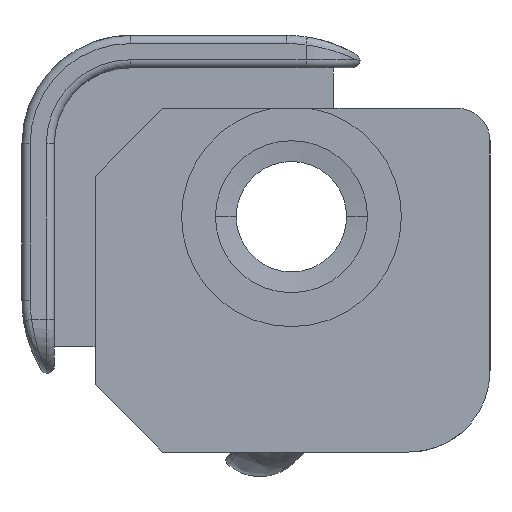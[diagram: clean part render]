
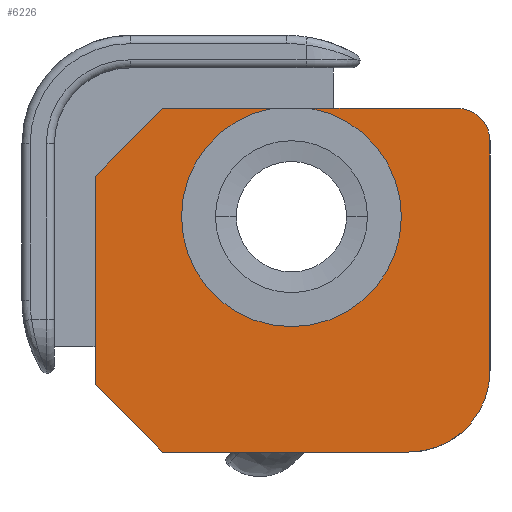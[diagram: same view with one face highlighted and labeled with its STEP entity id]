
A CAD part, left-side view. The second image highlights one B-rep face of the part: STEP entity #6226.
In plain terms, the highlighted planar face has unit normal (-1, 0, 0) as drawn and (0, 0, -1) by its records, which use the part's own axes.
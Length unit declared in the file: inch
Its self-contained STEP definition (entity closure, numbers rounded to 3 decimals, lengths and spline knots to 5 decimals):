
#5053=CARTESIAN_POINT('',(-0.2625,-0.305,-0.633));
#5054=DIRECTION('',(0.,0.,-1.));
#5055=DIRECTION('',(0.,-1.,0.));
#5056=AXIS2_PLACEMENT_3D('',#5053,#5054,#5055);
#5061=DIRECTION('',(1.,0.,0.));
#5062=VECTOR('',#5061,0.425);
#5063=CARTESIAN_POINT('',(-0.2625,-0.365,-0.633));
#5064=LINE('',#5063,#5062);
#5068=DIRECTION('',(-1.,0.,0.));
#5069=VECTOR('',#5068,0.385);
#5070=CARTESIAN_POINT('',(0.1875,0.365,-0.633));
#5071=LINE('',#5070,#5069);
#5075=DIRECTION('',(0.707,0.707,0.));
#5076=VECTOR('',#5075,0.17678);
#5077=CARTESIAN_POINT('',(-0.3225,0.24,-0.633));
#5078=LINE('',#5077,#5076);
#5082=DIRECTION('',(0.,-1.,0.));
#5083=VECTOR('',#5082,0.20208);
#5084=CARTESIAN_POINT('',(-0.3225,0.24,-0.633));
#5085=LINE('',#5084,#5083);
#5089=CARTESIAN_POINT('',(-0.1225,0.002,-0.633));
#5090=DIRECTION('',(0.,0.,-1.));
#5091=DIRECTION('',(-0.984,0.177,0.));
#5092=AXIS2_PLACEMENT_3D('',#5089,#5090,#5091);
#5104=DIRECTION('',(0.,-1.,0.));
#5105=VECTOR('',#5104,0.27108);
#5106=CARTESIAN_POINT('',(-0.3225,-0.03392,-0.633));
#5107=LINE('',#5106,#5105);
#5461=DIRECTION('',(0.,1.,0.));
#5462=VECTOR('',#5461,0.455);
#5463=CARTESIAN_POINT('',(0.3125,-0.215,-0.633));
#5464=LINE('',#5463,#5462);
#5677=CARTESIAN_POINT('',(0.1625,-0.215,-0.633));
#5678=DIRECTION('',(0.,0.,-1.));
#5679=DIRECTION('',(1.,0.,0.));
#5680=AXIS2_PLACEMENT_3D('',#5677,#5678,#5679);
#5752=DIRECTION('',(0.707,-0.707,0.));
#5753=VECTOR('',#5752,0.17678);
#5754=CARTESIAN_POINT('',(0.1875,0.365,-0.633));
#5755=LINE('',#5754,#5753);
#5877=CARTESIAN_POINT('',(0.3125,-0.215,-0.633));
#5878=CARTESIAN_POINT('',(0.3125,0.24,-0.633));
#5879=VERTEX_POINT('',#5877);
#5880=VERTEX_POINT('',#5878);
#5881=CARTESIAN_POINT('',(0.1625,-0.365,-0.633));
#5882=VERTEX_POINT('',#5881);
#5883=CARTESIAN_POINT('',(0.1875,0.365,-0.633));
#5884=VERTEX_POINT('',#5883);
#5914=CARTESIAN_POINT('',(-0.3225,-0.03392,-0.633));
#5916=VERTEX_POINT('',#5914);
#5918=CARTESIAN_POINT('',(-0.3225,0.03792,-0.633));
#5920=VERTEX_POINT('',#5918);
#5925=CARTESIAN_POINT('',(-0.3225,0.24,-0.633));
#5926=CARTESIAN_POINT('',(-0.1975,0.365,-0.633));
#5927=VERTEX_POINT('',#5925);
#5928=VERTEX_POINT('',#5926);
#5941=CARTESIAN_POINT('',(-0.2625,-0.365,-0.633));
#5942=CARTESIAN_POINT('',(-0.3225,-0.305,-0.633));
#5943=VERTEX_POINT('',#5941);
#5944=VERTEX_POINT('',#5942);
#6201=CARTESIAN_POINT('',(0.,0.,-0.633));
#6202=DIRECTION('',(0.,0.,1.));
#6203=DIRECTION('',(1.,0.,0.));
#6204=AXIS2_PLACEMENT_3D('',#6201,#6202,#6203);
#6205=PLANE('',#6204);
#6207=ORIENTED_EDGE('',*,*,#6206,.F.);
#6209=ORIENTED_EDGE('',*,*,#6208,.T.);
#6211=ORIENTED_EDGE('',*,*,#6210,.F.);
#6213=ORIENTED_EDGE('',*,*,#6212,.T.);
#6215=ORIENTED_EDGE('',*,*,#6214,.F.);
#6216=ORIENTED_EDGE('',*,*,#6171,.T.);
#6217=ORIENTED_EDGE('',*,*,#6191,.F.);
#6219=ORIENTED_EDGE('',*,*,#6218,.T.);
#6221=ORIENTED_EDGE('',*,*,#6220,.T.);
#6223=ORIENTED_EDGE('',*,*,#6222,.T.);
#6224=EDGE_LOOP('',(#6207,#6209,#6211,#6213,#6215,#6216,#6217,#6219,#6221,
#6223));
#6225=FACE_OUTER_BOUND('',#6224,.F.);
#5057=CIRCLE('',#5056,0.06);
#5093=CIRCLE('',#5092,0.2032);
#5681=CIRCLE('',#5680,0.15);
#6171=EDGE_CURVE('',#5884,#5928,#5071,.T.);
#6191=EDGE_CURVE('',#5927,#5928,#5078,.T.);
#6206=EDGE_CURVE('',#5943,#5944,#5057,.T.);
#6208=EDGE_CURVE('',#5943,#5882,#5064,.T.);
#6210=EDGE_CURVE('',#5879,#5882,#5681,.T.);
#6212=EDGE_CURVE('',#5879,#5880,#5464,.T.);
#6214=EDGE_CURVE('',#5884,#5880,#5755,.T.);
#6218=EDGE_CURVE('',#5927,#5920,#5085,.T.);
#6220=EDGE_CURVE('',#5920,#5916,#5093,.T.);
#6222=EDGE_CURVE('',#5916,#5944,#5107,.T.);
#6226=ADVANCED_FACE('',(#6225),#6205,.F.);
